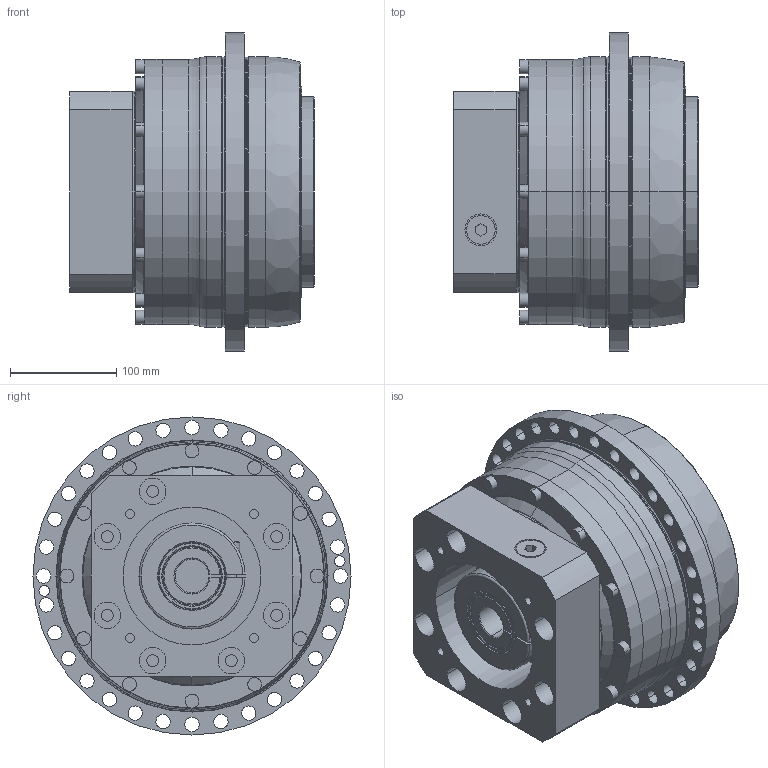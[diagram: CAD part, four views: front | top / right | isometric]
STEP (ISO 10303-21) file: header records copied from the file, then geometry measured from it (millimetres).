
FILE_DESCRIPTION(('STEP AP214'),'1');
FILE_NAME('20170316_122620545.stp','2017-03-16T11:26:21',(''),(''),'XStep 1.0','it-motive AG (itm_Acis_A0018_00R.dll)',' ');
FILE_SCHEMA(('automotive_design'));
Length unit declared in the file: millimetre
Products named in the file (7): Abtrieb_TP_m175_A; Antrieb_MF1_m175_N; 1; Abtriebsflansch_TPA_m175_0; ADP; vs_4_point; DSH
Bounding box: 230.8 x 300 x 300 mm (x, y, z)
Volume: 9635913.5 mm3; surface area: 737810.8 mm2
Topology: 7 solids, 7 shells, 413 faces, 1066 edges, 690 vertices
Faces by surface type: cylinder 225, plane 82, cone 56, torus 50
Entity records: 17207 total; most frequent: CARTESIAN_POINT 3022, DIRECTION 2504, ORIENTED_EDGE 2080, AXIS2_PLACEMENT_3D 1078, EDGE_CURVE 1040, VERTEX_POINT 690, CIRCLE 658, EDGE_LOOP 554
